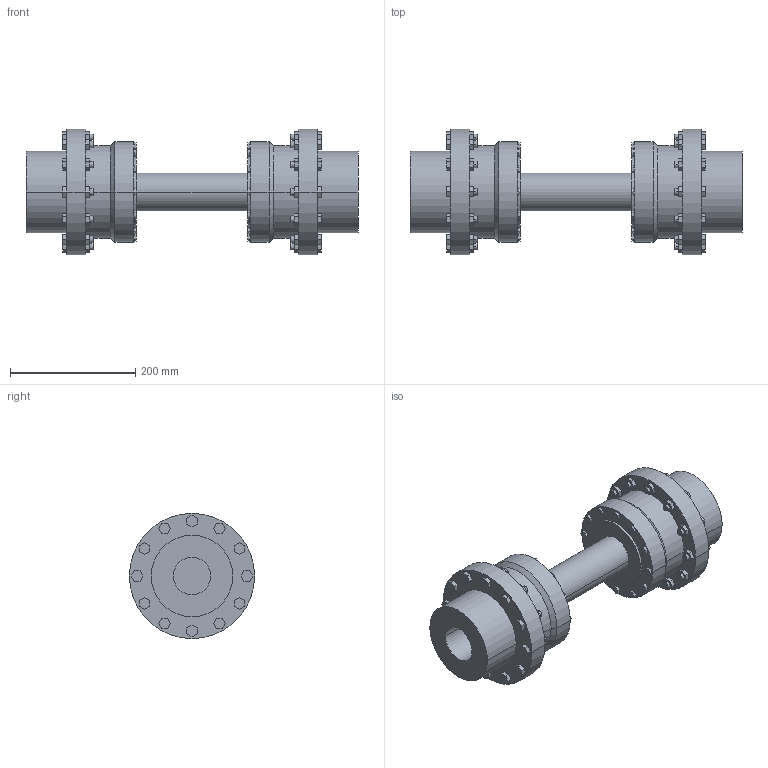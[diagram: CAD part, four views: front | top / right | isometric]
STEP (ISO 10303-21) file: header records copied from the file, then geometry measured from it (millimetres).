
FILE_DESCRIPTION((''),'2;1');
FILE_NAME('A19067300-0_ASM','2018-11-28T',('AB_Roschiwal'),('RENK AG'),'PRO/ENGINEER BY PARAMETRIC TECHNOLOGY CORPORATION, 2015440','PRO/ENGINEER BY PARAMETRIC TECHNOLOGY CORPORATION, 2015440','');
FILE_SCHEMA(('CONFIG_CONTROL_DESIGN'));
Length unit declared in the file: millimetre
Products named in the file (4): SBGK70_GEHAEUSE; SBGK70_NABE; SBGK70_WELLE; A19067300-0_ASM
Assembly tree (5 placements, depth 2):
  A19067300-0_ASM
    SBGK70_GEHAEUSE  x2
    SBGK70_NABE  x2
    SBGK70_WELLE
Bounding box: 530 x 200 x 200 mm (x, y, z)
Volume: 6360822.4 mm3; surface area: 664957.6 mm2
Topology: 5 solids, 5 shells, 660 faces, 1606 edges, 1068 vertices
Faces by surface type: plane 554, cylinder 102, cone 4
Entity records: 9734 total; most frequent: CARTESIAN_POINT 1683, ORIENTED_EDGE 1612, DIRECTION 1592, EDGE_CURVE 806, VECTOR 702, LINE 702, VERTEX_POINT 536, AXIS2_PLACEMENT_3D 445
